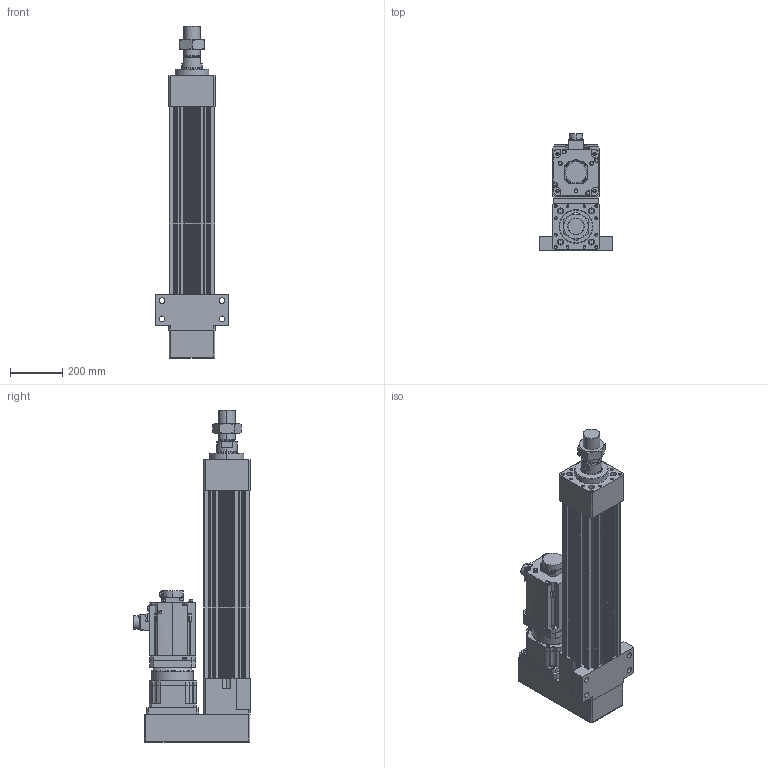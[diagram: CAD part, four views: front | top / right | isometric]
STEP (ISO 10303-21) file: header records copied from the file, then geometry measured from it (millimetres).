
FILE_DESCRIPTION (( 'STEP AP203' ), '1' );
FILE_NAME ('HES180HS-P400-W070G00-M-FFC.STEP', '2026-06-10T06:50:07', ( 'tms' ), ( '' ), 'SwSTEP 2.0', 'SolidWorks 2013', '' );
FILE_SCHEMA (( 'CONFIG_CONTROL_DESIGN' ));
Length unit declared in the file: millimetre
Products named in the file (9): HES180-M-ROD-400; M64X2.0P; AB1801; AB1802; HES180HS-P400-W070G00-M-FFC; HES180-FFC-400; HG-SR702B; HES180-P-G180; AB1803
Assembly tree (8 placements, depth 2):
  HES180HS-P400-W070G00-M-FFC
    HES180-FFC-400
    HES180-M-ROD-400
    M64X2.0P
    HES180-P-G180
    AB1801
    AB1802
    AB1803
    HG-SR702B
Bounding box: 280 x 447.1 x 1272 mm (x, y, z)
Volume: 30029052.2 mm3; surface area: 2662869.9 mm2
Topology: 5 solids, 20 shells, 1538 faces, 3985 edges, 2580 vertices
Faces by surface type: cylinder 708, plane 605, cone 158, bspline 63, torus 4
Entity records: 55722 total; most frequent: CARTESIAN_POINT 16516, DIRECTION 8271, ORIENTED_EDGE 7846, EDGE_CURVE 3947, AXIS2_PLACEMENT_3D 3115, VERTEX_POINT 2580, LINE 2041, VECTOR 2041
